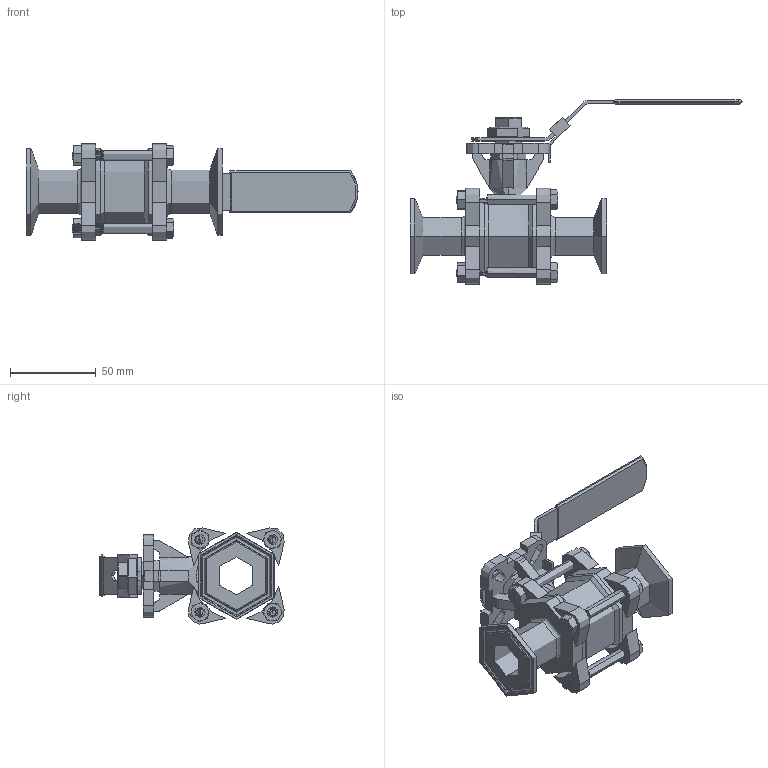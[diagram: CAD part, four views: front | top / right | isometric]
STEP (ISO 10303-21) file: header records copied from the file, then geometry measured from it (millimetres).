
FILE_DESCRIPTION (( 'STEP AP203' ), '1' );
FILE_NAME ('STC-8.STEP', '2021-06-21T20:45:49', ( 'Owner' ), ( '' ), 'SwSTEP 2.0', 'SolidWorks 2017', '' );
FILE_SCHEMA (( 'CONFIG_CONTROL_DESIGN' ));
Length unit declared in the file: inch
Products named in the file (27): STC-8-STEM; STC-8; STC-8-BALL; stc-8-handle; m6x55-bolt; STC-8-BODY; STC-8-SEAT; stc8-handle-nut; m6-nut; STC-8-ENDCAP; m6x55-bolt_92800A460; m6-nut_91028A661
Assembly tree (24 placements, depth 2):
  STC-8-STEM
  STC-8
    STC-8-BODY
    STC-8-BALL
    STC-8-SEAT
    STC-8-ENDCAP  x2
    STC-8-STEM
    m6x55-bolt_92800A460  x4
    m6-nut_91028A661  x4
    stc-8-handle
    stc8-handle-nut
  stc-8-handle
  STC-8-BODY
  stc8-handle-nut
Bounding box: 193.04 x 107.13 x 55.84 mm (x, y, z)
Volume: 146209.3 mm3; surface area: 85094.9 mm2
Topology: 28 solids, 28 shells, 842 faces, 2118 edges, 1348 vertices
Faces by surface type: cylinder 360, plane 264, cone 140, torus 48, bspline 26, sphere 4
Entity records: 23402 total; most frequent: CARTESIAN_POINT 9420, ORIENTED_EDGE 2384, DIRECTION 2309, EDGE_CURVE 1192, AXIS2_PLACEMENT_3D 853, VERTEX_POINT 753, LINE 603, VECTOR 603
